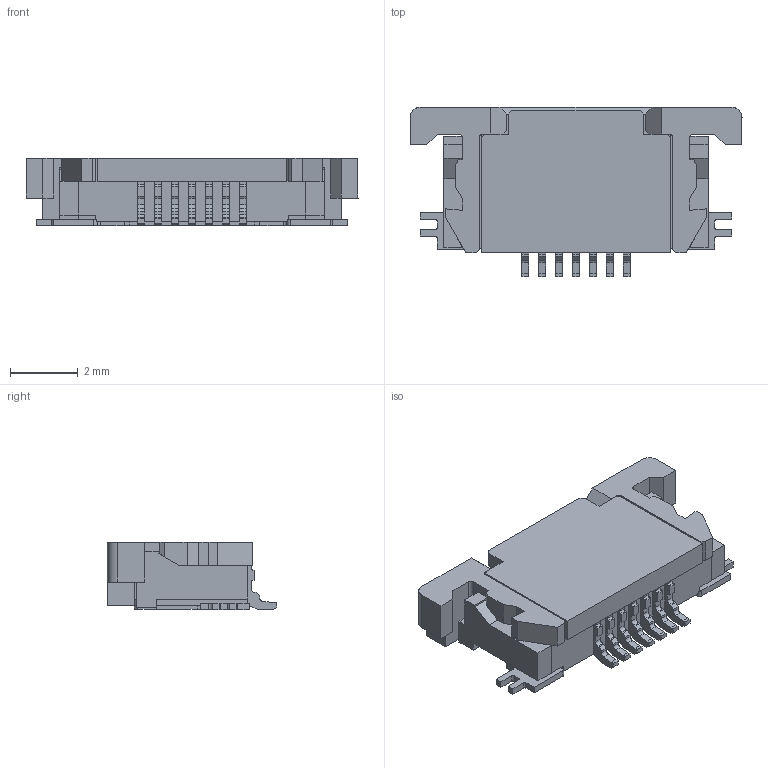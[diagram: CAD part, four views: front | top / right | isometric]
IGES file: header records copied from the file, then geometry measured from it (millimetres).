
Start section: SolidWorks IGES file using analytic representation for surfaces
Bounding box: 9.8 x 5 x 2 mm (x, y, z)
Surface area: 186.9 mm2 (no closed solid volume)
Topology: 0 solids, 0 shells, 321 faces, 2096 edges, 2088 vertices
Faces by surface type: bspline 273, revolution 48
